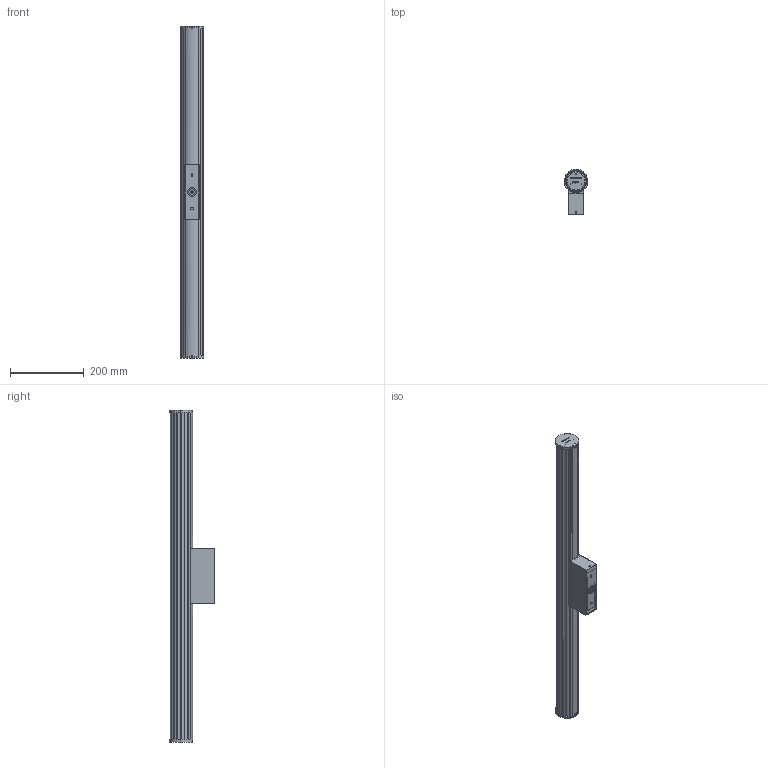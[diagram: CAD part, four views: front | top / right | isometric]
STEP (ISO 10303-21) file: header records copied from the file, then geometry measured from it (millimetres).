
FILE_DESCRIPTION (( 'STEP AP214' ), '1' );
FILE_NAME ('SARA-A3991171.STEP', '2026-01-15T07:58:22', ( '' ), ( '' ), 'SwSTEP 2.0', 'SolidWorks 2025', '' );
FILE_SCHEMA (( 'AUTOMOTIVE_DESIGN' ));
Length unit declared in the file: millimetre
Products named in the file (8): W2040C____-0.STEP; A3991170 W2040C 3D drawing_RPC.STEP; W2040B____.STEP; W2040____.STEP; SARA-A3991171; W2040C____.STEP; W2040B________.STEP; W2040________.STEP
Assembly tree (9 placements, depth 3):
  SARA-A3991171
    A3991170 W2040C 3D drawing_RPC.STEP
      W2040B____.STEP
      W2040B________.STEP
      W2040________.STEP  x2
      W2040____.STEP  x2
      W2040C____.STEP
      W2040C____-0.STEP
Bounding box: 63.5 x 123.5 x 901 mm (x, y, z)
Volume: 502543.2 mm3; surface area: 741317.9 mm2
Topology: 8 solids, 8 shells, 808 faces, 2157 edges, 1394 vertices
Faces by surface type: plane 380, cylinder 240, bspline 136, cone 38, torus 14
Entity records: 23061 total; most frequent: CARTESIAN_POINT 10091, ORIENTED_EDGE 2748, DIRECTION 2493, EDGE_CURVE 1374, VERTEX_POINT 902, AXIS2_PLACEMENT_3D 836, LINE 821, VECTOR 821
